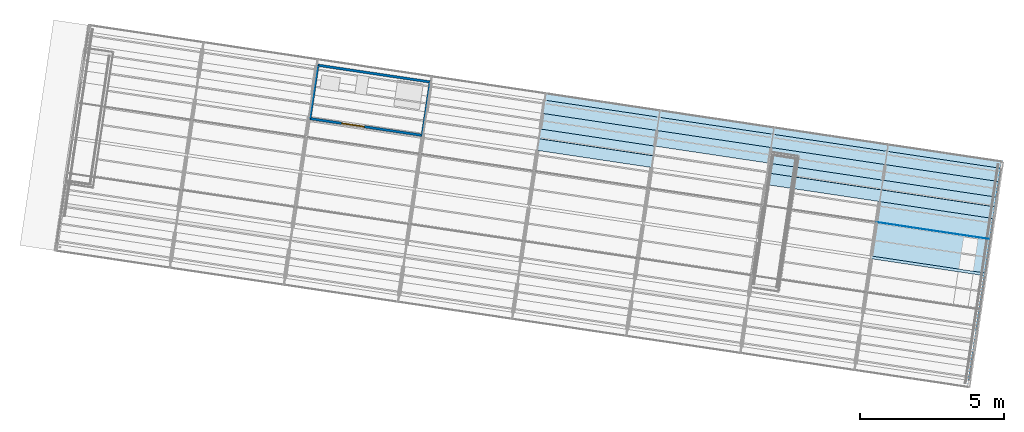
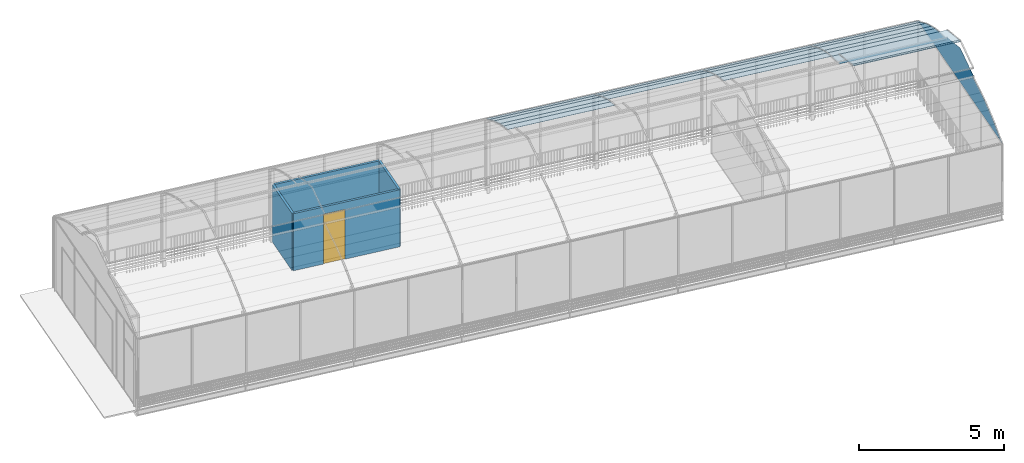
# One storey, part 27 of 34: 23 plates, 4 walls, 1 door, 1 opening, 1 element without a shape of its own.
"""IFC4 building model written with IfcOpenShell, lengths in metres."""

from ifc_helpers import new_model, si_unit, direction, frame, origin_with_axes, place, context, subcontext, project, spatial, polyline, outline, extrude, material, element, fill, aggregate, save


model = new_model("IFC4")

# Units and contexts
model_context = context("Model", 3, precision=1e-05, world=origin_with_axes(), true_north=direction((0.0, 1.0)))
body_context = subcontext(model_context, "Body", "Model", "MODEL_VIEW")
ifc_project = project(units=[si_unit("AREAUNIT", "SQUARE_METRE"), si_unit("VOLUMEUNIT", "CUBIC_METRE"), si_unit("LENGTHUNIT", "METRE")], contexts=[model_context])

# Site, building, storey
site_placement = place(None, origin_with_axes())
site = spatial("IfcSite", under=ifc_project, at=site_placement, Name="Lares · Rua das Mercês · artigo 4771")
building_placement = place(site_placement, frame((15.0, 9.7, 14.65), z_axis=(0.0, 0.0, 1.0), x_axis=(0.989015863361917, -0.147809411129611, 0.0)))
building = spatial("IfcBuilding", under=site, at=building_placement, Name="Casa Sobreposta")
storey_placement = place(building_placement, frame((0.0, 0.0, 3.24), z_axis=(0.0, 0.0, 1.0), x_axis=(1.0, 0.0, 0.0)))
storey = spatial("IfcBuildingStorey", under=building, at=storey_placement, Name="01 · Jardim de inverno", Elevation=17.89)

# Roof, plates
ifc_material_1 = material(Name="Vidro / Normalglas", Category="glass")
roof_placement = place(storey_placement, frame((0.0, 0.0, -3.24), z_axis=(0.0, 0.0, 1.0), x_axis=(1.0, 0.0, 0.0)))
roof = element("IfcRoof", 1, at=roof_placement, inside=storey, material=ifc_material_1, Name="Cobertura translúcida da estufa", PredefinedType="BARREL_ROOF")
plate_1_placement = place(roof_placement, frame((28.0, 0.0, 0.0), z_axis=(1.0, 0.0, 0.0), x_axis=(0.0, 1.0, 0.0)))
plate_1 = element("IfcPlate", 2, at=plate_1_placement, material=ifc_material_1, Name="Cobertura 8.9", PredefinedType="SHEET", context=body_context, shape_type="SweptSolid", body=[
    extrude(outline(polyline([(2.40274082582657, 7.96518238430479), (2.49770027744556, 7.96518238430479), (2.49770027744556, 7.95718238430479), (2.40274082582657, 7.95718238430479), (2.40274082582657, 7.96518238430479)])), origin_with_axes(), (0.0, 0.0, 1.0), 4.0),
])
plate_2_placement = place(roof_placement, frame((28.0, 0.0, 0.0), z_axis=(1.0, 0.0, 0.0), x_axis=(0.0, 1.0, 0.0)))
plate_2 = element("IfcPlate", 3, at=plate_2_placement, material=ifc_material_1, Name="Cobertura 8.10", PredefinedType="SHEET", context=body_context, shape_type="SweptSolid", body=[
    extrude(outline(polyline([(2.49770027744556, 7.96518238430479), (3.68002089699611, 7.62067689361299), (3.68002089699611, 7.61267689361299), (2.49770027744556, 7.95718238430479), (2.49770027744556, 7.96518238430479)])), origin_with_axes(), (0.0, 0.0, 1.0), 4.0),
])
plate_3_placement = place(roof_placement, frame((28.0, 0.0, 0.0), z_axis=(1.0, 0.0, 0.0), x_axis=(0.0, 1.0, 0.0)))
plate_3 = element("IfcPlate", 4, at=plate_3_placement, material=ifc_material_1, Name="Cobertura 8.11", PredefinedType="SHEET", context=body_context, shape_type="SweptSolid", body=[
    extrude(outline(polyline([(3.68002089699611, 7.30067689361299), (3.68573096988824, 7.21327919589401), (3.68573096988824, 7.20527919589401), (3.68002089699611, 7.29267689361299), (3.68002089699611, 7.30067689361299)])), origin_with_axes(), (0.0, 0.0, 1.0), 4.0),
])
plate_4_placement = place(roof_placement, frame((28.0, 0.0, 0.0), z_axis=(1.0, 0.0, 0.0), x_axis=(0.0, 1.0, 0.0)))
plate_4 = element("IfcPlate", 5, at=plate_4_placement, material=ifc_material_1, Name="Cobertura 8.12", PredefinedType="SHEET", context=body_context, shape_type="SweptSolid", body=[
    extrude(outline(polyline([(3.68573096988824, 7.21327919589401), (4.40690649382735, 7.05944154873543), (4.40690649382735, 7.05144154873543), (3.68573096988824, 7.20527919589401), (3.68573096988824, 7.21327919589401)])), origin_with_axes(), (0.0, 0.0, 1.0), 4.0),
])
plate_5_placement = place(roof_placement, frame((16.0, 0.0, 0.0), z_axis=(1.0, 0.0, 0.0), x_axis=(0.0, 1.0, 0.0)))
plate_5 = element("IfcPlate", 6, at=plate_5_placement, material=ifc_material_1, Name="Cobertura 5.13", PredefinedType="SHEET", context=body_context, shape_type="SweptSolid", body=[
    extrude(outline(polyline([(4.40690649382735, 7.05944154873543), (4.81540166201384, 6.93795392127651), (4.81540166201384, 6.92995392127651), (4.40690649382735, 7.05144154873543), (4.40690649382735, 7.05944154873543)])), origin_with_axes(), (0.0, 0.0, 1.0), 4.0),
])
plate_6_placement = place(roof_placement, frame((24.0, 0.0, 0.0), z_axis=(1.0, 0.0, 0.0), x_axis=(0.0, 1.0, 0.0)))
plate_6 = element("IfcPlate", 7, at=plate_6_placement, material=ifc_material_1, Name="Cobertura 7.13", PredefinedType="SHEET", context=body_context, shape_type="SweptSolid", body=[
    extrude(outline(polyline([(4.40690649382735, 7.05944154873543), (4.81540166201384, 6.93795392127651), (4.81540166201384, 6.92995392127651), (4.40690649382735, 7.05144154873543), (4.40690649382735, 7.05944154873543)])), origin_with_axes(), (0.0, 0.0, 1.0), 4.0),
])
plate_7_placement = place(roof_placement, frame((28.0, 0.0, 0.0), z_axis=(1.0, 0.0, 0.0), x_axis=(0.0, 1.0, 0.0)))
plate_7 = element("IfcPlate", 8, at=plate_7_placement, material=ifc_material_1, Name="Cobertura 8.13", PredefinedType="SHEET", context=body_context, shape_type="SweptSolid", body=[
    extrude(outline(polyline([(4.40690649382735, 7.05944154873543), (4.81540166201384, 6.93795392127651), (4.81540166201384, 6.92995392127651), (4.40690649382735, 7.05144154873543), (4.40690649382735, 7.05944154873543)])), origin_with_axes(), (0.0, 0.0, 1.0), 4.0),
])
plate_8_placement = place(roof_placement, frame((16.0, 0.0, 0.0), z_axis=(1.0, 0.0, 0.0), x_axis=(0.0, 1.0, 0.0)))
plate_8 = element("IfcPlate", 9, at=plate_8_placement, material=ifc_material_1, Name="Cobertura 5.14", PredefinedType="SHEET", context=body_context, shape_type="SweptSolid", body=[
    extrude(outline(polyline([(4.81540166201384, 6.93795392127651), (5.15650506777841, 6.8157371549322), (5.15650506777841, 6.8077371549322), (4.81540166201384, 6.92995392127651), (4.81540166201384, 6.93795392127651)])), origin_with_axes(), (0.0, 0.0, 1.0), 4.0),
])
plate_9_placement = place(roof_placement, frame((24.0, 0.0, 0.0), z_axis=(1.0, 0.0, 0.0), x_axis=(0.0, 1.0, 0.0)))
plate_9 = element("IfcPlate", 10, at=plate_9_placement, material=ifc_material_1, Name="Cobertura 7.14", PredefinedType="SHEET", context=body_context, shape_type="SweptSolid", body=[
    extrude(outline(polyline([(4.81540166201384, 6.93795392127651), (5.15650506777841, 6.8157371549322), (5.15650506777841, 6.8077371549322), (4.81540166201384, 6.92995392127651), (4.81540166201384, 6.93795392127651)])), origin_with_axes(), (0.0, 0.0, 1.0), 4.0),
])
plate_10_placement = place(roof_placement, frame((28.0, 0.0, 0.0), z_axis=(1.0, 0.0, 0.0), x_axis=(0.0, 1.0, 0.0)))
plate_10 = element("IfcPlate", 11, at=plate_10_placement, material=ifc_material_1, Name="Cobertura 8.14", PredefinedType="SHEET", context=body_context, shape_type="SweptSolid", body=[
    extrude(outline(polyline([(4.81540166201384, 6.93795392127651), (5.15650506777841, 6.8157371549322), (5.15650506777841, 6.8077371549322), (4.81540166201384, 6.92995392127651), (4.81540166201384, 6.93795392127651)])), origin_with_axes(), (0.0, 0.0, 1.0), 4.0),
])
plate_11_placement = place(roof_placement, frame((16.0, 0.0, 0.0), z_axis=(1.0, 0.0, 0.0), x_axis=(0.0, 1.0, 0.0)))
plate_11 = element("IfcPlate", 12, at=plate_11_placement, material=ifc_material_1, Name="Cobertura 5.15", PredefinedType="SHEET", context=body_context, shape_type="SweptSolid", body=[
    extrude(outline(polyline([(5.15650506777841, 6.8157371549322), (5.70303916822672, 6.57620268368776), (5.70303916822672, 6.56820268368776), (5.15650506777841, 6.8077371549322), (5.15650506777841, 6.8157371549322)])), origin_with_axes(), (0.0, 0.0, 1.0), 4.0),
])
plate_12_placement = place(roof_placement, frame((20.0, 0.0, 0.0), z_axis=(1.0, 0.0, 0.0), x_axis=(0.0, 1.0, 0.0)))
plate_12 = element("IfcPlate", 13, at=plate_12_placement, material=ifc_material_1, Name="Cobertura 6.15", PredefinedType="SHEET", context=body_context, shape_type="SweptSolid", body=[
    extrude(outline(polyline([(5.15650506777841, 6.8157371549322), (5.70303916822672, 6.57620268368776), (5.70303916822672, 6.56820268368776), (5.15650506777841, 6.8077371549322), (5.15650506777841, 6.8157371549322)])), origin_with_axes(), (0.0, 0.0, 1.0), 4.0),
])
plate_13_placement = place(roof_placement, frame((24.0, 0.0, 0.0), z_axis=(1.0, 0.0, 0.0), x_axis=(0.0, 1.0, 0.0)))
plate_13 = element("IfcPlate", 14, at=plate_13_placement, material=ifc_material_1, Name="Cobertura 7.15", PredefinedType="SHEET", context=body_context, shape_type="SweptSolid", body=[
    extrude(outline(polyline([(5.15650506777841, 6.8157371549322), (5.70303916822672, 6.57620268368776), (5.70303916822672, 6.56820268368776), (5.15650506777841, 6.8077371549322), (5.15650506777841, 6.8157371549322)])), origin_with_axes(), (0.0, 0.0, 1.0), 4.0),
])
plate_14_placement = place(roof_placement, frame((28.0, 0.0, 0.0), z_axis=(1.0, 0.0, 0.0), x_axis=(0.0, 1.0, 0.0)))
plate_14 = element("IfcPlate", 15, at=plate_14_placement, material=ifc_material_1, Name="Cobertura 8.15", PredefinedType="SHEET", context=body_context, shape_type="SweptSolid", body=[
    extrude(outline(polyline([(5.15650506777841, 6.8157371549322), (5.70303916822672, 6.57620268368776), (5.70303916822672, 6.56820268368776), (5.15650506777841, 6.8077371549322), (5.15650506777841, 6.8157371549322)])), origin_with_axes(), (0.0, 0.0, 1.0), 4.0),
])
plate_15_placement = place(roof_placement, frame((16.0, 0.0, 0.0), z_axis=(1.0, 0.0, 0.0), x_axis=(0.0, 1.0, 0.0)))
plate_15 = element("IfcPlate", 16, at=plate_15_placement, material=ifc_material_1, Name="Cobertura 5.16", PredefinedType="SHEET", context=body_context, shape_type="SweptSolid", body=[
    extrude(outline(polyline([(5.70303916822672, 6.57620268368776), (6.16760124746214, 6.3240293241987), (6.16760124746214, 6.3160293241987), (5.70303916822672, 6.56820268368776), (5.70303916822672, 6.57620268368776)])), origin_with_axes(), (0.0, 0.0, 1.0), 4.0),
])
plate_16_placement = place(roof_placement, frame((20.0, 0.0, 0.0), z_axis=(1.0, 0.0, 0.0), x_axis=(0.0, 1.0, 0.0)))
plate_16 = element("IfcPlate", 17, at=plate_16_placement, material=ifc_material_1, Name="Cobertura 6.16", PredefinedType="SHEET", context=body_context, shape_type="SweptSolid", body=[
    extrude(outline(polyline([(5.70303916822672, 6.57620268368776), (6.16760124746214, 6.3240293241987), (6.16760124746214, 6.3160293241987), (5.70303916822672, 6.56820268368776), (5.70303916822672, 6.57620268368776)])), origin_with_axes(), (0.0, 0.0, 1.0), 4.0),
])
plate_17_placement = place(roof_placement, frame((24.0, 0.0, 0.0), z_axis=(1.0, 0.0, 0.0), x_axis=(0.0, 1.0, 0.0)))
plate_17 = element("IfcPlate", 18, at=plate_17_placement, material=ifc_material_1, Name="Cobertura 7.16", PredefinedType="SHEET", context=body_context, shape_type="SweptSolid", body=[
    extrude(outline(polyline([(5.70303916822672, 6.57620268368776), (6.16760124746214, 6.3240293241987), (6.16760124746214, 6.3160293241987), (5.70303916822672, 6.56820268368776), (5.70303916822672, 6.57620268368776)])), origin_with_axes(), (0.0, 0.0, 1.0), 4.0),
])
plate_18_placement = place(roof_placement, frame((28.0, 0.0, 0.0), z_axis=(1.0, 0.0, 0.0), x_axis=(0.0, 1.0, 0.0)))
plate_18 = element("IfcPlate", 19, at=plate_18_placement, material=ifc_material_1, Name="Cobertura 8.16", PredefinedType="SHEET", context=body_context, shape_type="SweptSolid", body=[
    extrude(outline(polyline([(5.70303916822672, 6.57620268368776), (6.16760124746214, 6.3240293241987), (6.16760124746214, 6.3160293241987), (5.70303916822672, 6.56820268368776), (5.70303916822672, 6.57620268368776)])), origin_with_axes(), (0.0, 0.0, 1.0), 4.0),
])
plate_19_placement = place(roof_placement, frame((16.0, 0.0, 0.0), z_axis=(1.0, 0.0, 0.0), x_axis=(0.0, 1.0, 0.0)))
plate_19 = element("IfcPlate", 20, at=plate_19_placement, material=ifc_material_1, Name="Cobertura 5.17", PredefinedType="SHEET", context=body_context, shape_type="SweptSolid", body=[
    extrude(outline(polyline([(6.16760124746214, 6.3240293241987), (6.39999999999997, 6.23430000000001), (6.39999999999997, 6.22630000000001), (6.16760124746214, 6.3160293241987), (6.16760124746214, 6.3240293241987)])), origin_with_axes(), (0.0, 0.0, 1.0), 4.0),
])
plate_20_placement = place(roof_placement, frame((20.0, 0.0, 0.0), z_axis=(1.0, 0.0, 0.0), x_axis=(0.0, 1.0, 0.0)))
plate_20 = element("IfcPlate", 21, at=plate_20_placement, material=ifc_material_1, Name="Cobertura 6.17", PredefinedType="SHEET", context=body_context, shape_type="SweptSolid", body=[
    extrude(outline(polyline([(6.16760124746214, 6.3240293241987), (6.39999999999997, 6.23430000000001), (6.39999999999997, 6.22630000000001), (6.16760124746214, 6.3160293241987), (6.16760124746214, 6.3240293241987)])), origin_with_axes(), (0.0, 0.0, 1.0), 4.0),
])
plate_21_placement = place(roof_placement, frame((24.0, 0.0, 0.0), z_axis=(1.0, 0.0, 0.0), x_axis=(0.0, 1.0, 0.0)))
plate_21 = element("IfcPlate", 22, at=plate_21_placement, material=ifc_material_1, Name="Cobertura 7.17", PredefinedType="SHEET", context=body_context, shape_type="SweptSolid", body=[
    extrude(outline(polyline([(6.16760124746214, 6.3240293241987), (6.39999999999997, 6.23430000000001), (6.39999999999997, 6.22630000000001), (6.16760124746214, 6.3160293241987), (6.16760124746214, 6.3240293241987)])), origin_with_axes(), (0.0, 0.0, 1.0), 4.0),
])
plate_22_placement = place(roof_placement, frame((28.0, 0.0, 0.0), z_axis=(1.0, 0.0, 0.0), x_axis=(0.0, 1.0, 0.0)))
plate_22 = element("IfcPlate", 23, at=plate_22_placement, material=ifc_material_1, Name="Cobertura 8.17", PredefinedType="SHEET", context=body_context, shape_type="SweptSolid", body=[
    extrude(outline(polyline([(6.16760124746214, 6.3240293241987), (6.39999999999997, 6.23430000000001), (6.39999999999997, 6.22630000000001), (6.16760124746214, 6.3160293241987), (6.16760124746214, 6.3240293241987)])), origin_with_axes(), (0.0, 0.0, 1.0), 4.0),
])
plate_23_placement = place(roof_placement, frame((31.992, 0.0, 0.0), z_axis=(1.0, 0.0, 0.0), x_axis=(0.0, 1.0, 0.0)))
plate_23 = element("IfcPlate", 24, at=plate_23_placement, material=ifc_material_1, Name="Empena da estufa", context=body_context, shape_type="SweptSolid", body=[
    extrude(outline(polyline([(-1.5, 6.22), (-1.5, 6.23430000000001), (-1.26765509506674, 6.32392631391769), (-1.21743691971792, 6.35359791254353), (-1.16685614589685, 6.38286403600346), (-1.11591778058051, 6.41172178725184), (-1.06462686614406, 6.4401683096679), (-1.01298847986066, 6.46820078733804), (-0.961007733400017, 6.49581644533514), (-0.908689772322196, 6.52301254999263), (-0.856039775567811, 6.54978640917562), (-0.803062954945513, 6.57613537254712), (-0.749764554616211, 6.6020568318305), (-0.696149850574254, 6.62754822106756), (-0.642224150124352, 6.6526070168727), (-0.587992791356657, 6.67723073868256), (-0.533461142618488, 6.70141694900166), (-0.478634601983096, 6.72516325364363), (-0.423518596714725, 6.74846730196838), (-0.368118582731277, 6.77132678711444), (-0.312440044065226, 6.79373944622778), (-0.256488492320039, 6.81570306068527), (-0.200269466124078, 6.83721545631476), (-0.143788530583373, 6.85827450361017), (-0.0870512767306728, 6.87887811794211), (-0.0300633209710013, 6.89902425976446), (0.0271696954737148, 6.9187109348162), (0.0846421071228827, 6.93793619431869), (0.142348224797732, 6.95669813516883), (0.200282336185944, 6.97499490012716), (0.258438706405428, 6.99282467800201), (0.316811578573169, 7.01018570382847), (0.375395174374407, 7.02707625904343), (0.434183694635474, 7.04349467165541), (0.493171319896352, 7.05943931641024), (0.552352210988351, 7.07490861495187), (0.611720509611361, 7.08990103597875), (0.671270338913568, 7.1044150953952), (0.730995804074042, 7.11844935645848), (0.790890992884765, 7.13200242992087), (0.85094997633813, 7.14507297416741), (0.911166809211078, 7.15765969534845), (0.971535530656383, 7.16976134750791), (1.03205016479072, 7.1813767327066), (1.09270472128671, 7.19250470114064), (1.15349319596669, 7.20314415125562), (1.21440957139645, 7.21329402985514), (1.22042020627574, 7.30067689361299), (2.40274082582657, 7.64518238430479), (2.49770027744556, 7.64518238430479), (3.68002089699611, 7.30067689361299), (3.68573096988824, 7.21327919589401), (3.74664195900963, 7.20313026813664), (3.80742507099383, 7.19249185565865), (3.86807429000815, 7.18136501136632), (3.92858361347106, 7.16975083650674), (3.9889470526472, 7.15765048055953), (4.04915863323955, 7.14506514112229), (4.10921239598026, 7.13199606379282), (4.1691023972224, 7.11844454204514), (4.22882270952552, 7.10441191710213), (4.28836742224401, 7.08989957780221), (4.34773064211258, 7.07490896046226), (4.40690649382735, 7.05944154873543), (4.46588912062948, 7.04349887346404), (4.52467268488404, 7.02708251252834), (4.58325136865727, 7.01019409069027), (4.64161937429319, 6.99283527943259), (4.69977092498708, 6.97500779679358), (4.75770026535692, 6.95671340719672), (4.81540166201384, 6.93795392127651), (4.87286940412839, 6.91873119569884), (4.93009780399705, 6.89904713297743), (4.98708119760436, 6.87890368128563), (5.04381394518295, 6.85830283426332), (5.10029043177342, 6.83724663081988), (5.15650506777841, 6.8157371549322), (5.21245228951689, 6.79377653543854), (5.26812655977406, 6.77136694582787), (5.32352236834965, 6.74851060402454), (5.37863423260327, 6.72520977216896), (5.43345669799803, 6.70146675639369), (5.48798433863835, 6.67728390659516), (5.54221175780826, 6.65266361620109), (5.59613358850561, 6.62760832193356), (5.64974449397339, 6.60212050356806), (5.70303916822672, 6.57620268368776), (5.75601233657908, 6.54985742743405), (5.80865875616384, 6.52308734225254), (5.86097321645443, 6.49589507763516), (5.9129505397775, 6.46828332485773), (5.9645855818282, 6.44025481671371), (6.01587323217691, 6.41181232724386), (6.0668084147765, 6.38295867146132), (6.11738608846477, 6.35369670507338), (6.16760124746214, 6.3240293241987), (6.39999999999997, 6.23430000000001), (6.39999999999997, 6.22), (-1.5, 6.22)])), origin_with_axes(), (0.0, 0.0, 1.0), 0.008),
])
aggregate(roof, [plate_1, plate_2, plate_3, plate_4, plate_5, plate_6, plate_7, plate_8, plate_9, plate_10, plate_11, plate_12, plate_13, plate_14, plate_15, plate_16, plate_17, plate_18, plate_19, plate_20, plate_21, plate_22, plate_23])

# Walls
ifc_material_2 = material(Name="OSB", Category="wood")
wall_1_placement = place(storey_placement, origin_with_axes())
element("IfcWall", 25, at=wall_1_placement, inside=storey, material=ifc_material_2, Name="Banho superior · poente", context=body_context, shape_type="SweptSolid", body=[
    extrude(outline(polyline([(7.996, 6.203), (8.084, 6.203), (8.084, 4.333), (7.996, 4.333), (7.996, 6.203)])), origin_with_axes(), (0.0, 0.0, 1.0), 2.4),
])
wall_2_placement = place(storey_placement, origin_with_axes())
element("IfcWall", 26, at=wall_2_placement, inside=storey, material=ifc_material_2, Name="Banho superior · norte", context=body_context, shape_type="SweptSolid", body=[
    extrude(outline(polyline([(11.98, 6.247), (11.98, 6.159), (8.04, 6.159), (8.04, 6.247), (11.98, 6.247)])), origin_with_axes(), (0.0, 0.0, 1.0), 2.4),
])
wall_3_placement = place(storey_placement, origin_with_axes())
element("IfcWall", 27, at=wall_3_placement, inside=storey, material=ifc_material_2, Name="Banho superior · nascente", context=body_context, shape_type="SweptSolid", body=[
    extrude(outline(polyline([(12.024, 4.333), (11.936, 4.333), (11.936, 6.203), (12.024, 6.203), (12.024, 4.333)])), origin_with_axes(), (0.0, 0.0, 1.0), 2.4),
])

# Wall, opening, door
wall_4_placement = place(storey_placement, origin_with_axes())
wall_4 = element("IfcWall", 28, at=wall_4_placement, inside=storey, material=ifc_material_2, Name="Banho superior · sul", context=body_context, shape_type="SweptSolid", body=[
    extrude(outline(polyline([(11.98, 4.377), (11.98, 4.289), (8.04, 4.289), (8.04, 4.377), (11.98, 4.377)])), origin_with_axes(), (0.0, 0.0, 1.0), 2.4),
])
opening_placement = place(wall_4_placement, origin_with_axes())
opening = element("IfcOpeningElement", 29, at=opening_placement, cuts=wall_4, Name="Vão banho superior", PredefinedType="OPENING", context=body_context, shape_type="SweptSolid", body=[
    extrude(outline(polyline([(9.95, 4.1), (9.95, 4.55), (9.15, 4.55), (9.15, 4.1), (9.95, 4.1)])), origin_with_axes(), (0.0, 0.0, 1.0), 2.1),
])
door_placement = place(storey_placement, origin_with_axes())
door = element("IfcDoor", 30, at=door_placement, inside=storey, material=ifc_material_2, Name="Porta banho superior", OperationType="SINGLE_SWING_LEFT", OverallHeight=2.1, OverallWidth=0.799999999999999, PredefinedType="DOOR", context=body_context, shape_type="SweptSolid", body=[
    extrude(outline(polyline([(9.95, 4.3505), (9.95, 4.3155), (9.15, 4.3155), (9.15, 4.3505), (9.95, 4.3505)])), origin_with_axes(), (0.0, 0.0, 1.0), 2.1),
])
fill(opening, door)

save(model, "model.ifc")
